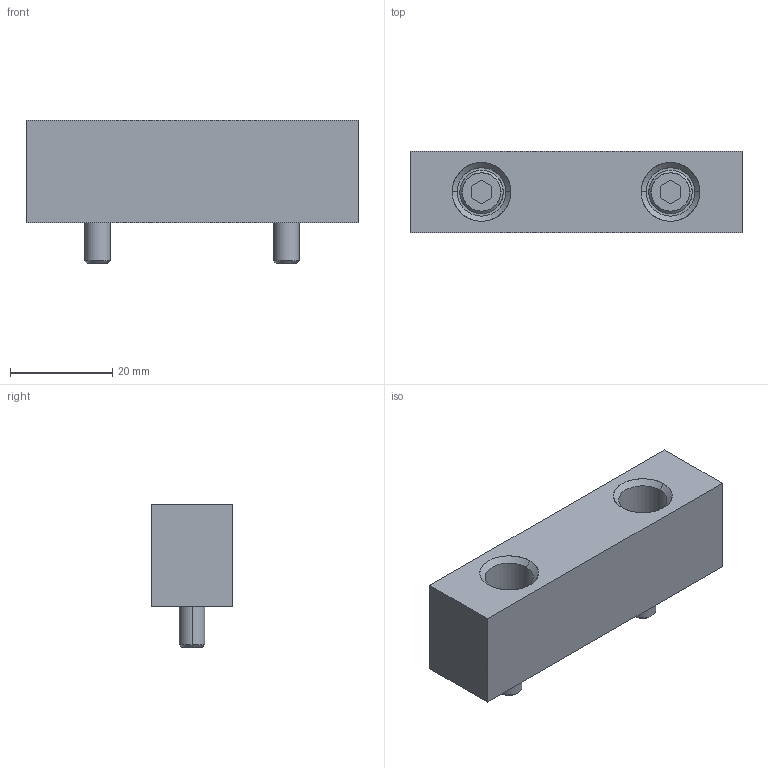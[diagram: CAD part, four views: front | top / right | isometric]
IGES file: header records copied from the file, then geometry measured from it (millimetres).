
Global section: file name: E:\UnigraphicsGraphicData\MISUMI_PRESS-PARTS\IGES\3d_sbvk16-65-20-y-15_00152_r00.igs; native system: NX V5.0; preprocessor: UGS NX IGES V5.0; author: MISUMI; date: 20110105.162510; units: millimetre
Bounding box: 65 x 16 x 28 mm (x, y, z)
Surface area: 7222.8 mm2 (no closed solid volume)
Topology: 0 solids, 0 shells, 56 faces, 336 edges, 336 vertices
Faces by surface type: bspline 56
